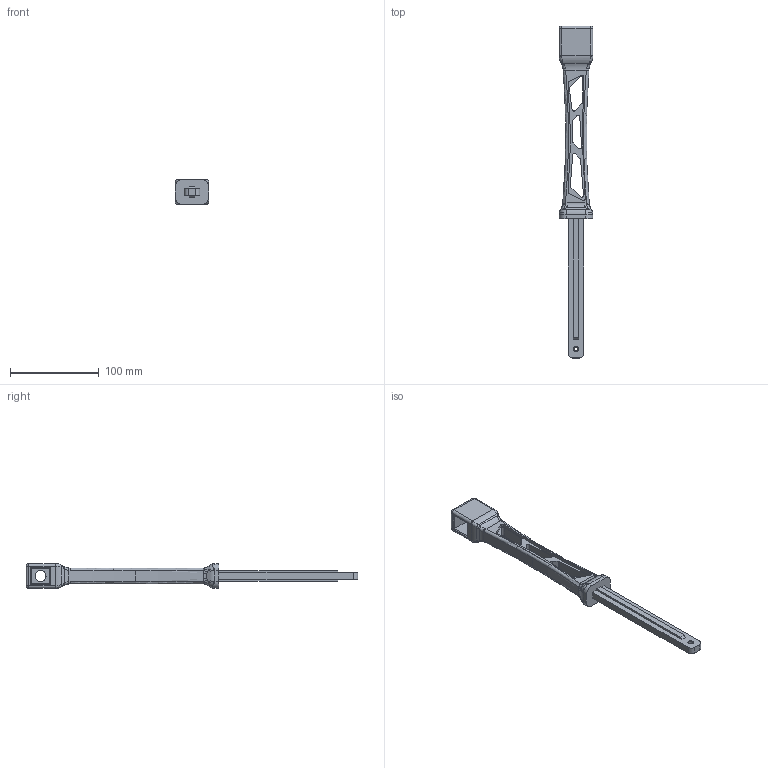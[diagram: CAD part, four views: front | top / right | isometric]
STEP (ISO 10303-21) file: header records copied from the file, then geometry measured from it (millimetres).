
FILE_DESCRIPTION (( 'STEP AP214' ), '1' );
FILE_NAME ('Ðóêîÿòêà.STEP', '2026-02-11T18:39:02', ( '' ), ( '' ), 'SwSTEP 2.0', 'SolidWorks 2021', '' );
FILE_SCHEMA (( 'AUTOMOTIVE_DESIGN' ));
Length unit declared in the file: millimetre
Products named in the file (1): Ðóêîÿòêà
Bounding box: 38 x 374.46 x 28 mm (x, y, z)
Volume: 116057.5 mm3; surface area: 36613 mm2
Topology: 1 solids, 1 shells, 218 faces, 544 edges, 328 vertices
Faces by surface type: cylinder 76, plane 72, bspline 48, torus 12, cone 6, sphere 4
Entity records: 7364 total; most frequent: CARTESIAN_POINT 2411, ORIENTED_EDGE 1080, DIRECTION 974, EDGE_CURVE 540, AXIS2_PLACEMENT_3D 363, VERTEX_POINT 328, LINE 248, VECTOR 248
